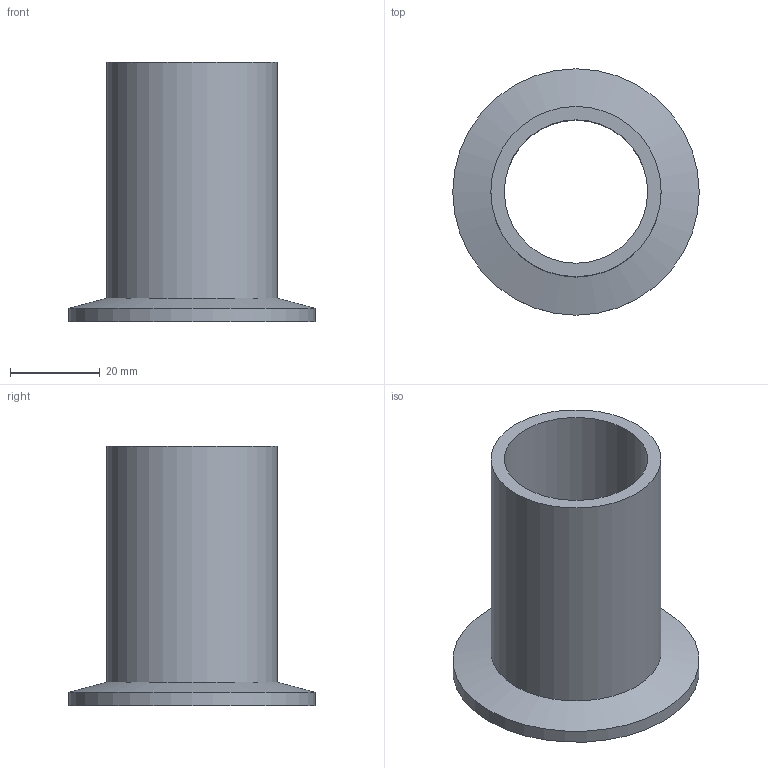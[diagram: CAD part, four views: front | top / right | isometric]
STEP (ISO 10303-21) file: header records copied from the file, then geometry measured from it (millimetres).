
FILE_DESCRIPTION( ( 'Unknown' ), '1' );
FILE_NAME( 'X:/Daten ( aktueller Bestand )/Projekte und Zeichnungen/Solid Edge/2 Bauteile KF/Stahl/KF mit Rohransatz Stahl lang/1565.stp', 'Unknown', ( 'Unknown' ), ( 'Unknown' ), 'XStep 1.0', 'Unknown', ' ' );
FILE_SCHEMA( ( 'automotive_design' ) );
Length unit declared in the file: millimetre
Products named in the file (1): 1
Bounding box: 55 x 55 x 58 mm (x, y, z)
Volume: 23899.4 mm3; surface area: 15847.4 mm2
Topology: 1 solids, 1 shells, 8 faces, 13 edges, 8 vertices
Faces by surface type: cylinder 4, plane 3, cone 1
Full cylindrical faces by diameter (mm): 32 x1, 34.2 x1, 38 x1, 55 x1
Entity records: 248 total; most frequent: DIRECTION 34, CARTESIAN_POINT 25, AXIS2_PLACEMENT_3D 17, EDGE_LOOP 16, ORIENTED_EDGE 16, FACE_OUTER_BOUND 12, STYLED_ITEM 8, PRESENTATION_STYLE_ASSIGNMENT 8
